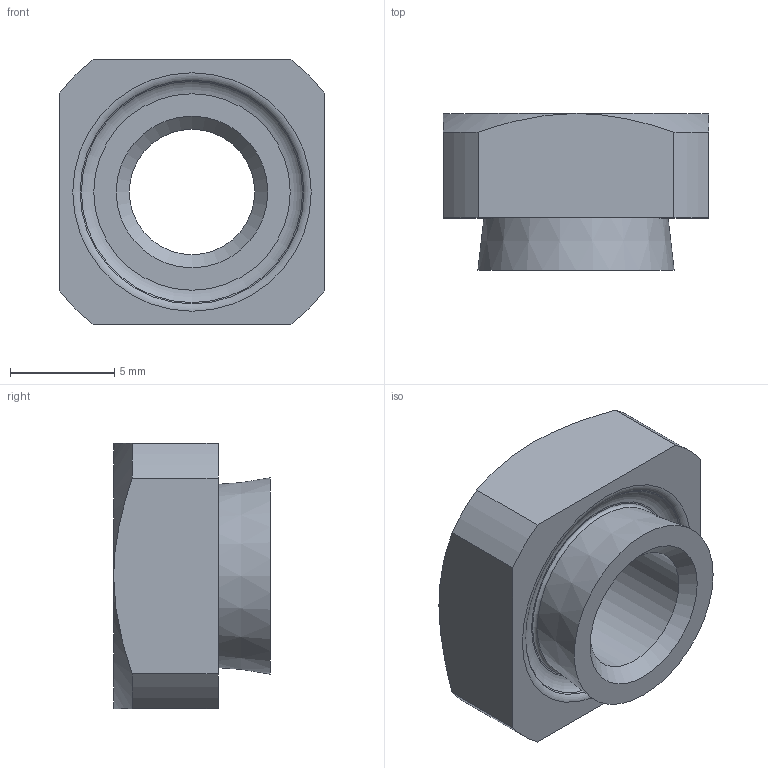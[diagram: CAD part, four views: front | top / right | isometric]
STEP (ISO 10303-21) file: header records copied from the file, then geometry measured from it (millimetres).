
FILE_DESCRIPTION(/* description */ (''),/* implementation_level */ '2;1');
FILE_NAME(/* name */ 'D:\Sukhmani\Fastit\HN Nut\HN 6-3.0.stp',/* time_stamp */ '2024-03-14T12:23:34+06:00',/* author */ ('edc.sukhmani'),/* organization */ (''),/* preprocessor_version */ 'ST-DEVELOPER v18.1',/* originating_system */ 'Autodesk Inventor 2022',/* authorisation */ '');
FILE_SCHEMA (('AUTOMOTIVE_DESIGN { 1 0 10303 214 3 1 1 }'));
Length unit declared in the file: millimetre
Products named in the file (1): HN 6-3.0
Bounding box: 12.72 x 7.5 x 12.72 mm (x, y, z)
Volume: 699.9 mm3; surface area: 704.5 mm2
Topology: 1 solids, 1 shells, 25 faces, 58 edges, 37 vertices
Faces by surface type: cone 8, plane 8, cylinder 6, torus 3
Full cylindrical faces by diameter (mm): 6 x1, 7.25 x1
Entity records: 763 total; most frequent: CARTESIAN_POINT 137, DIRECTION 134, ORIENTED_EDGE 116, EDGE_CURVE 58, AXIS2_PLACEMENT_3D 58, VERTEX_POINT 37, CIRCLE 32, EDGE_LOOP 29
